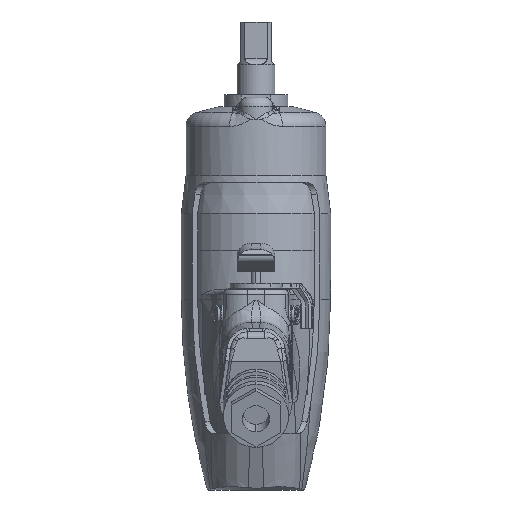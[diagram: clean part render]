
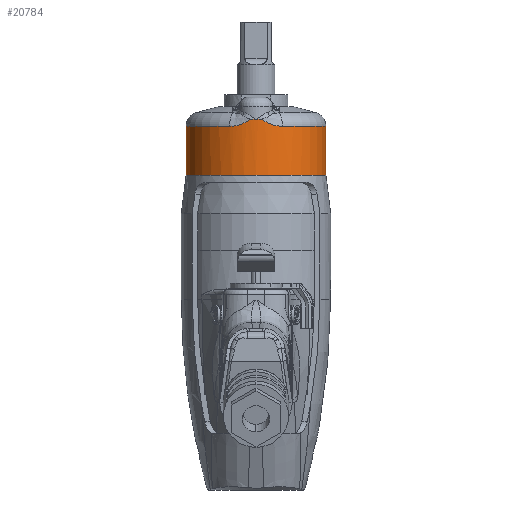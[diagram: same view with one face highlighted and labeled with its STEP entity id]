
A CAD part, front view. The second image highlights one B-rep face of the part: STEP entity #20784.
In plain terms, the highlighted cylindrical face has radius 29.5 mm (diameter 59 mm), a partial arc.
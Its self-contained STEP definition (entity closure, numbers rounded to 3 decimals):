
#4054 = VERTEX_POINT ( 'NONE', #13599 ) ;
#4231 = CARTESIAN_POINT ( 'NONE',  ( 6.216, -28.84, -35.125 ) ) ;
#4321 = ORIENTED_EDGE ( 'NONE', *, *, #32160, .T. ) ;
#4360 = CIRCLE ( 'NONE', #22538, 29.5 ) ;
#4539 = ORIENTED_EDGE ( 'NONE', *, *, #28746, .F. ) ;
#6685 = EDGE_LOOP ( 'NONE', ( #11478, #12840, #48192, #44080, #19965, #4539, #21689, #4321 ) ) ;
#8476 = CARTESIAN_POINT ( 'NONE',  ( -3.696, -29.276, -33.902 ) ) ;
#8517 = DIRECTION ( 'NONE',  ( 0., 0., 1. ) ) ;
#8896 = CARTESIAN_POINT ( 'NONE',  ( 5.109, -29.057, -34.656 ) ) ;
#9983 = CYLINDRICAL_SURFACE ( 'NONE', #37356, 29.5 ) ;
#10161 = CARTESIAN_POINT ( 'NONE',  ( 29.5, 0., -36.021 ) ) ;
#10464 = AXIS2_PLACEMENT_3D ( 'NONE', #23947, #56332, #28628 ) ;
#10879 = VERTEX_POINT ( 'NONE', #48074 ) ;
#11478 = ORIENTED_EDGE ( 'NONE', *, *, #39922, .F. ) ;
#12333 = VERTEX_POINT ( 'NONE', #24612 ) ;
#12840 = ORIENTED_EDGE ( 'NONE', *, *, #17970, .T. ) ;
#13140 = CARTESIAN_POINT ( 'NONE',  ( -5.109, -29.057, -34.656 ) ) ;
#13540 = CARTESIAN_POINT ( 'NONE',  ( 3.696, -29.276, -33.902 ) ) ;
#13599 = CARTESIAN_POINT ( 'NONE',  ( -11.141, -27.316, -36.021 ) ) ;
#14663 = VERTEX_POINT ( 'NONE', #53863 ) ;
#14778 = DIRECTION ( 'NONE',  ( 0., 0., 1. ) ) ;
#15156 = B_SPLINE_CURVE_WITH_KNOTS ( 'NONE', 3,
 ( #50344, #22672, #27333, #59738, #32024, #4231, #36650, #8896, #41291, #13540, #45921, #18183 ),
 .UNSPECIFIED., .F., .F.,
 ( 4, 2, 2, 2, 2, 4 ),
 ( 0., 0.002, 0.005, 0.006, 0.007, 0.01 ),
 .UNSPECIFIED. ) ;
#16827 = EDGE_CURVE ( 'NONE', #16920, #10879, #33445, .T. ) ;
#16920 = VERTEX_POINT ( 'NONE', #10161 ) ;
#17779 = CARTESIAN_POINT ( 'NONE',  ( -6.216, -28.84, -35.125 ) ) ;
#17970 = EDGE_CURVE ( 'NONE', #12333, #31584, #4360, .T. ) ;
#18183 = CARTESIAN_POINT ( 'NONE',  ( 2.386, -29.403, -32.951 ) ) ;
#19588 = B_SPLINE_CURVE_WITH_KNOTS ( 'NONE', 3,
 ( #26913, #54628, #8476, #40893, #13140, #45500, #17779, #50129, #22441, #54827, #27122, #59529 ),
 .UNSPECIFIED., .F., .F.,
 ( 4, 2, 2, 2, 2, 4 ),
 ( 0., 0.002, 0.004, 0.005, 0.007, 0.01 ),
 .UNSPECIFIED. ) ;
#19965 = ORIENTED_EDGE ( 'NONE', *, *, #29652, .T. ) ;
#20015 = DIRECTION ( 'NONE',  ( 0., 0., -1. ) ) ;
#20707 = LINE ( 'NONE', #23886, #42453 ) ;
#20784 = ADVANCED_FACE ( 'NONE', ( #34660 ), #9983, .T. ) ;
#21318 = VECTOR ( 'NONE', #32670, 1000. ) ;
#21689 = ORIENTED_EDGE ( 'NONE', *, *, #24307, .T. ) ;
#22441 = CARTESIAN_POINT ( 'NONE',  ( -8.093, -28.379, -35.701 ) ) ;
#22538 = AXIS2_PLACEMENT_3D ( 'NONE', #25031, #57437, #29724 ) ;
#22672 = CARTESIAN_POINT ( 'NONE',  ( 10.385, -27.624, -36.021 ) ) ;
#23886 = CARTESIAN_POINT ( 'NONE',  ( 29.5, 0., -22.7 ) ) ;
#23947 = CARTESIAN_POINT ( 'NONE',  ( 0., 0., -36.021 ) ) ;
#24119 = DIRECTION ( 'NONE',  ( 0., 0., 1. ) ) ;
#24307 = EDGE_CURVE ( 'NONE', #14663, #4054, #19588, .T. ) ;
#24612 = CARTESIAN_POINT ( 'NONE',  ( -29.5, 0., -56.589 ) ) ;
#24742 = CIRCLE ( 'NONE', #29025, 29.5 ) ;
#25031 = CARTESIAN_POINT ( 'NONE',  ( 0., 0., -56.589 ) ) ;
#26913 = CARTESIAN_POINT ( 'NONE',  ( -2.386, -29.403, -32.951 ) ) ;
#27122 = CARTESIAN_POINT ( 'NONE',  ( -10.385, -27.624, -36.021 ) ) ;
#27333 = CARTESIAN_POINT ( 'NONE',  ( 9.615, -27.9, -35.956 ) ) ;
#28628 = DIRECTION ( 'NONE',  ( 1., 0., 0. ) ) ;
#28746 = EDGE_CURVE ( 'NONE', #14663, #37244, #24742, .T. ) ;
#29025 = AXIS2_PLACEMENT_3D ( 'NONE', #51805, #24119, #56490 ) ;
#29652 = EDGE_CURVE ( 'NONE', #10879, #37244, #15156, .T. ) ;
#29724 = DIRECTION ( 'NONE',  ( -1., 0., 0. ) ) ;
#31584 = VERTEX_POINT ( 'NONE', #33306 ) ;
#32024 = CARTESIAN_POINT ( 'NONE',  ( 7.338, -28.583, -35.511 ) ) ;
#32160 = EDGE_CURVE ( 'NONE', #4054, #56208, #59332, .T. ) ;
#32670 = DIRECTION ( 'NONE',  ( 0., 0., 1. ) ) ;
#33044 = AXIS2_PLACEMENT_3D ( 'NONE', #47714, #20015, #52403 ) ;
#33306 = CARTESIAN_POINT ( 'NONE',  ( 29.5, 0., -56.589 ) ) ;
#33445 = CIRCLE ( 'NONE', #10464, 29.5 ) ;
#33536 = CARTESIAN_POINT ( 'NONE',  ( 2.386, -29.403, -32.951 ) ) ;
#34660 = FACE_OUTER_BOUND ( 'NONE', #6685, .T. ) ;
#34888 = EDGE_CURVE ( 'NONE', #31584, #16920, #20707, .T. ) ;
#36650 = CARTESIAN_POINT ( 'NONE',  ( 5.842, -28.918, -34.979 ) ) ;
#37244 = VERTEX_POINT ( 'NONE', #33536 ) ;
#37356 = AXIS2_PLACEMENT_3D ( 'NONE', #50170, #8517, #41116 ) ;
#38051 = CARTESIAN_POINT ( 'NONE',  ( -29.5, 0., -36.021 ) ) ;
#39922 = EDGE_CURVE ( 'NONE', #12333, #56208, #58309, .T. ) ;
#40893 = CARTESIAN_POINT ( 'NONE',  ( -4.75, -29.117, -34.479 ) ) ;
#41116 = DIRECTION ( 'NONE',  ( 1., 0., 0. ) ) ;
#41291 = CARTESIAN_POINT ( 'NONE',  ( 4.75, -29.117, -34.479 ) ) ;
#42453 = VECTOR ( 'NONE', #14778, 1000. ) ;
#44080 = ORIENTED_EDGE ( 'NONE', *, *, #16827, .T. ) ;
#45500 = CARTESIAN_POINT ( 'NONE',  ( -5.842, -28.918, -34.979 ) ) ;
#45921 = CARTESIAN_POINT ( 'NONE',  ( 3.025, -29.351, -33.456 ) ) ;
#47714 = CARTESIAN_POINT ( 'NONE',  ( 0., 0., -36.021 ) ) ;
#48074 = CARTESIAN_POINT ( 'NONE',  ( 11.141, -27.316, -36.021 ) ) ;
#48192 = ORIENTED_EDGE ( 'NONE', *, *, #34888, .T. ) ;
#50129 = CARTESIAN_POINT ( 'NONE',  ( -7.338, -28.583, -35.511 ) ) ;
#50170 = CARTESIAN_POINT ( 'NONE',  ( 0., 0., -22.7 ) ) ;
#50344 = CARTESIAN_POINT ( 'NONE',  ( 11.141, -27.316, -36.021 ) ) ;
#51805 = CARTESIAN_POINT ( 'NONE',  ( 0., 0., -32.951 ) ) ;
#52403 = DIRECTION ( 'NONE',  ( 1., 0., 0. ) ) ;
#53863 = CARTESIAN_POINT ( 'NONE',  ( -2.386, -29.403, -32.951 ) ) ;
#54628 = CARTESIAN_POINT ( 'NONE',  ( -3.025, -29.351, -33.456 ) ) ;
#54827 = CARTESIAN_POINT ( 'NONE',  ( -9.615, -27.9, -35.956 ) ) ;
#56208 = VERTEX_POINT ( 'NONE', #38051 ) ;
#56332 = DIRECTION ( 'NONE',  ( 0., 0., -1. ) ) ;
#56490 = DIRECTION ( 'NONE',  ( 1., 0., 0. ) ) ;
#57437 = DIRECTION ( 'NONE',  ( 0., 0., 1. ) ) ;
#58309 = LINE ( 'NONE', #59988, #21318 ) ;
#59332 = CIRCLE ( 'NONE', #33044, 29.5 ) ;
#59529 = CARTESIAN_POINT ( 'NONE',  ( -11.141, -27.316, -36.021 ) ) ;
#59738 = CARTESIAN_POINT ( 'NONE',  ( 8.093, -28.379, -35.701 ) ) ;
#59988 = CARTESIAN_POINT ( 'NONE',  ( -29.5, 0., -22.7 ) ) ;
